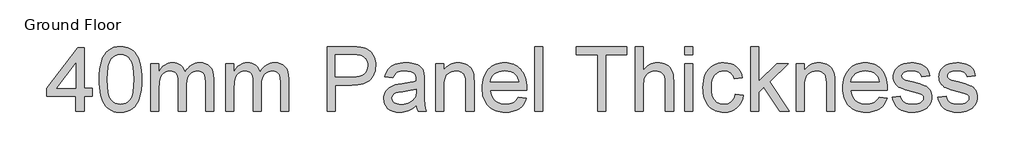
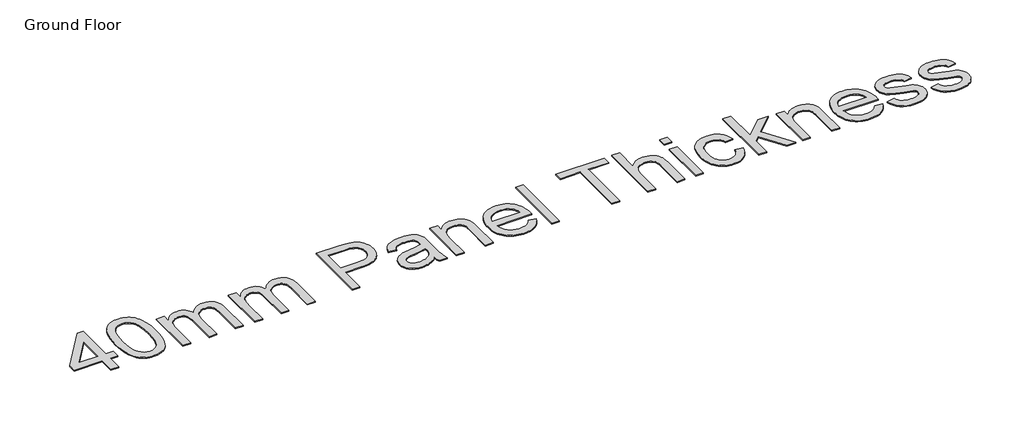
# One storey, part 11 of 14: 1 proxy.
"""IFC4 building model written with IfcOpenShell, lengths in millimetres."""

from ifc_helpers import new_model, si_unit, origin, origin_with_axes, place, context, project, spatial, polyline, outline, extrude, element, save

model = new_model("IFC4")

# Units and contexts
model_context = context("Model", 3, world=origin())
ifc_project = project(units=[si_unit("LENGTHUNIT", "METRE", prefix="MILLI")], contexts=[model_context])

# Site, building, storey
site = spatial("IfcSite", under=ifc_project)
building = spatial("IfcBuilding", under=site)
storey = spatial("IfcBuildingStorey", under=building, Name="Ground Floor", Elevation=0.0)

# Proxy
placement = place(None, origin())
element("IfcBuildingElementProxy", 1, Name="1200mm Arial", ObjectType="1200mm Arial", at=placement, inside=storey, context=model_context, shape_type="SweptSolid", body=[
    extrude(outline(polyline([(-21570.0275267, 8102.4454456), (-21570.0275267, 8384.9788179), (-22116.2587131, 8384.9788179), (-22116.2587131, 8535.6632831), (-21532.3564103, 9289.0856092), (-21419.3430614, 9289.0856092), (-21419.3430614, 8535.6632831), (-21268.6585962, 8535.6632831), (-21268.6585962, 8384.9788179), (-21419.3430614, 8384.9788179), (-21419.3430614, 8102.4454456), (-21570.0275267, 8102.4454456)]), holes=[polyline([(-21570.0275267, 8535.6632831), (-21570.0275267, 9001.2547362), (-21930.8461875, 8535.6632831), (-21570.0275267, 8535.6632831)])]), origin_with_axes(), (0.0, 0.0, 1.0), 20.0),
    extrude(outline(polyline([(-21136.8096891, 8695.4712218), (-21134.0413771, 8796.8319085), (-21125.7364411, 8888.4253283), (-21111.894881, 8970.2514811), (-21092.5166969, 9042.3103669), (-21067.6846622, 9105.1905969), (-21037.4815504, 9159.4807823), (-21001.9073615, 9205.1809232), (-20960.9620954, 9242.2910195), (-20914.5077965, 9271.0042092), (-20862.4065089, 9291.5136304), (-20804.6582327, 9303.8192831), (-20741.2629679, 9307.9211674), (-20693.6222495, 9305.4931462), (-20648.4095523, 9298.2090827), (-20605.6248763, 9286.0689769), (-20565.2682214, 9269.0728287), (-20528.314475, 9247.5057467), (-20495.7385243, 9221.6528395), (-20467.5403694, 9191.5141071), (-20443.7200102, 9157.0895494), (-20423.0818303, 9118.5171222), (-20404.4302131, 9075.9347812), (-20373.0866671, 8978.7403581), (-20361.1121082, 8921.5806931), (-20352.5588518, 8855.3159487), (-20347.426898, 8779.946125), (-20345.7162467, 8695.4712218), (-20348.4569676, 8594.7543286), (-20356.6791302, 8503.6207613), (-20370.3827345, 8422.0705201), (-20389.5677805, 8350.1036048), (-20414.2066772, 8287.1957836), (-20444.2718332, 8232.8228247), (-20479.7632487, 8186.9847281), (-20520.6809236, 8149.6814938), (-20567.1904049, 8120.775166), (-20619.4572393, 8100.127789), (-20677.481427, 8087.7393628), (-20741.2629679, 8083.6098874), (-20783.9372794, 8085.4033122), (-20824.257146, 8090.7835864), (-20862.2225679, 8099.75071), (-20897.8335451, 8112.3046831), (-20931.0900774, 8128.4455056), (-20961.992165, 8148.1731776), (-20990.5398079, 8171.487699), (-21016.7330059, 8198.3890699), (-21044.8759785, 8240.9852065), (-21069.2665548, 8289.1639523), (-21089.9047347, 8342.9253073), (-21106.7905183, 8402.2692717), (-21119.9239056, 8467.1958453), (-21129.3048964, 8537.7050282), (-21134.933491, 8613.7968204), (-21136.8096891, 8695.4712218)]), holes=[polyline([(-20986.1252239, 8695.7655274), (-20981.71064, 8564.771946), (-20968.4668881, 8458.7391579), (-20958.5340743, 8415.0830614), (-20946.3939684, 8377.6671632), (-20932.0465706, 8346.4914634), (-20915.4918808, 8321.5559619), (-20878.1150701, 8283.3790079), (-20836.6179811, 8256.109755), (-20791.0006137, 8239.7482032), (-20741.2629679, 8234.2943527), (-20691.5253222, 8239.7665973), (-20645.9079548, 8256.1833314), (-20604.4108657, 8283.5445548), (-20567.034055, 8321.8502675), (-20550.4793652, 8346.8455498), (-20536.1319674, 8378.0534393), (-20523.9918616, 8415.473936), (-20514.0590477, 8459.1070399), (-20500.8152959, 8565.0110693), (-20496.4007119, 8695.7655274), (-20500.6681431, 8823.291821), (-20513.4704365, 8927.457608), (-20523.0721566, 8970.7803114), (-20534.8075922, 9008.2628882), (-20548.6767434, 9039.9053383), (-20564.6796102, 9065.7076618), (-20601.4310216, 9105.7516169), (-20643.4063572, 9134.3544421), (-20690.6056172, 9151.5161371), (-20743.0288015, 9157.2367022), (-20792.5089298, 9152.1967188), (-20837.3537451, 9137.0767688), (-20877.5632471, 9111.8768522), (-20913.1374361, 9076.5969688), (-20930.2439488, 9048.049326), (-20945.0695932, 9014.0570296), (-20957.6143693, 8974.6200798), (-20967.8782769, 8929.7384764), (-20981.5634872, 8823.6413089), (-20986.1252239, 8695.7655274)])]), origin_with_axes(), (0.0, 0.0, 1.0), 20.0),
    extrude(outline(polyline([(-20176.1962233, 8102.4454456), (-20176.1962233, 8987.7166788), (-20025.5117581, 8987.7166788), (-20025.5117581, 8842.0354087), (-20004.468908, 8877.306095), (-19980.1886963, 8908.9531436), (-19952.6711231, 8936.9765546), (-19921.9161883, 8961.3763279), (-19888.4205326, 8981.1407881), (-19852.6807968, 8995.2582597), (-19814.6969808, 9003.7287426), (-19774.4690846, 9006.5522369), (-19730.4887921, 9003.6735603), (-19690.6655661, 8995.0375305), (-19654.9994067, 8980.6441474), (-19623.4903138, 8960.4934112), (-19596.2302579, 8935.1555387), (-19573.3112096, 8905.2007473), (-19554.7331689, 8870.6290368), (-19540.4961357, 8831.4404072), (-19513.999435, 8872.4822423), (-19485.5713538, 8908.0518327), (-19455.2118921, 8938.1491785), (-19422.92105, 8962.7742795), (-19388.6988274, 8981.9271359), (-19352.5452243, 8995.6077476), (-19314.4602408, 9003.8161146), (-19274.4438768, 9006.5522369), (-19214.1204266, 9001.9996973), (-19161.1730104, 8988.3420782), (-19115.6016283, 8965.5793797), (-19077.4062801, 8933.7116019), (-19061.2309687, 8914.2713377), (-19047.2123654, 8892.3708627), (-19025.6452834, 8841.1892801), (-19012.7050342, 8780.1668542), (-19008.3916178, 8709.3035848), (-19008.3916178, 8102.4454456), (-19159.0760831, 8102.4454456), (-19159.0760831, 8644.5563537), (-19162.570962, 8719.7146453), (-19173.0555989, 8770.371996), (-19181.4617025, 8788.6465342), (-19192.7004974, 8805.0632682), (-19206.7719837, 8819.6221981), (-19223.6761614, 8832.323324), (-19242.7968281, 8842.6240199), (-19263.5177815, 8849.9816598), (-19309.7605483, 8855.8677717), (-19352.4624509, 8852.0969813), (-19391.393563, 8840.7846099), (-19426.5538847, 8821.9306577), (-19457.9434159, 8795.5351245), (-19483.759535, 8760.8254583), (-19502.19962, 8717.0291067), (-19513.263671, 8664.1460699), (-19516.951688, 8602.1763478), (-19516.951688, 8102.4454456), (-19667.6361532, 8102.4454456), (-19667.6361532, 8661.3317727), (-19669.815854, 8706.9859283), (-19676.3549565, 8746.5332428), (-19687.2534606, 8779.9737161), (-19702.5113663, 8807.3073484), (-19722.735679, 8828.5525336), (-19748.5334039, 8843.7276659), (-19779.9045411, 8852.8327453), (-19816.8490904, 8855.8677717), (-19846.445197, 8853.8444207), (-19874.9008693, 8847.7743678), (-19902.2161074, 8837.657613), (-19928.3909114, 8823.4941561), (-19952.2296647, 8805.4311502), (-19972.5367508, 8783.6157479), (-19989.3121698, 8758.0479492), (-20002.5559216, 8728.7277542), (-20012.5991001, 8694.0916643), (-20019.772799, 8652.5761812), (-20024.0770183, 8604.1813047), (-20025.5117581, 8548.9070349), (-20025.5117581, 8102.4454456), (-20176.1962233, 8102.4454456)])), origin_with_axes(), (0.0, 0.0, 1.0), 20.0),
    extrude(outline(polyline([(-18782.36492, 8102.4454456), (-18782.36492, 8987.7166788), (-18631.6804548, 8987.7166788), (-18631.6804548, 8842.0354087), (-18610.6376047, 8877.306095), (-18586.357393, 8908.9531436), (-18558.8398197, 8936.9765546), (-18528.0848849, 8961.3763279), (-18494.5892293, 8981.1407881), (-18458.8494934, 8995.2582597), (-18420.8656774, 9003.7287426), (-18380.6377813, 9006.5522369), (-18336.6574887, 9003.6735603), (-18296.8342628, 8995.0375305), (-18261.1681033, 8980.6441474), (-18229.6590104, 8960.4934112), (-18202.3989546, 8935.1555387), (-18179.4799063, 8905.2007473), (-18160.9018656, 8870.6290368), (-18146.6648323, 8831.4404072), (-18120.1681316, 8872.4822423), (-18091.7400505, 8908.0518327), (-18061.3805888, 8938.1491785), (-18029.0897467, 8962.7742795), (-17994.8675241, 8981.9271359), (-17958.713921, 8995.6077476), (-17920.6289375, 9003.8161146), (-17880.6125734, 9006.5522369), (-17820.2891233, 9001.9996973), (-17767.3417071, 8988.3420782), (-17721.770325, 8965.5793797), (-17683.5749768, 8933.7116019), (-17667.3996653, 8914.2713377), (-17653.3810621, 8892.3708627), (-17631.8139801, 8841.1892801), (-17618.8737309, 8780.1668542), (-17614.5603145, 8709.3035848), (-17614.5603145, 8102.4454456), (-17765.2447797, 8102.4454456), (-17765.2447797, 8644.5563537), (-17768.7396587, 8719.7146453), (-17779.2242956, 8770.371996), (-17787.6303991, 8788.6465342), (-17798.8691941, 8805.0632682), (-17812.9406804, 8819.6221981), (-17829.8448581, 8832.323324), (-17848.9655248, 8842.6240199), (-17869.6864782, 8849.9816598), (-17915.929245, 8855.8677717), (-17958.6311476, 8852.0969813), (-17997.5622597, 8840.7846099), (-18032.7225814, 8821.9306577), (-18064.1121126, 8795.5351245), (-18089.9282316, 8760.8254583), (-18108.3683166, 8717.0291067), (-18119.4323676, 8664.1460699), (-18123.1203846, 8602.1763478), (-18123.1203846, 8102.4454456), (-18273.8048499, 8102.4454456), (-18273.8048499, 8661.3317727), (-18275.9845507, 8706.9859283), (-18282.5236532, 8746.5332428), (-18293.4221573, 8779.9737161), (-18308.680063, 8807.3073484), (-18328.9043757, 8828.5525336), (-18354.7021006, 8843.7276659), (-18386.0732377, 8852.8327453), (-18423.0177871, 8855.8677717), (-18452.6138936, 8853.8444207), (-18481.069566, 8847.7743678), (-18508.3848041, 8837.657613), (-18534.5596081, 8823.4941561), (-18558.3983613, 8805.4311502), (-18578.7054475, 8783.6157479), (-18595.4808665, 8758.0479492), (-18608.7246183, 8728.7277542), (-18618.7677967, 8694.0916643), (-18625.9414957, 8652.5761812), (-18630.245715, 8604.1813047), (-18631.6804548, 8548.9070349), (-18631.6804548, 8102.4454456), (-18782.36492, 8102.4454456)])), origin_with_axes(), (0.0, 0.0, 1.0), 20.0),
    extrude(outline(polyline([(-16898.8091047, 8102.4454456), (-16898.8091047, 9307.9211674), (-16452.0532098, 9307.9211674), (-16348.0161815, 9305.0516878), (-16271.9381849, 9296.4432491), (-16230.0088345, 9287.4025491), (-16191.6295454, 9274.9957288), (-16156.8003175, 9259.2227883), (-16125.5211508, 9240.0837275), (-16097.4609517, 9217.1830733), (-16072.2886261, 9190.1253525), (-16050.0041743, 9158.9105652), (-16030.6075961, 9123.5387114), (-16014.8990349, 9085.1778164), (-16003.678634, 9044.9959054), (-15996.9463935, 9002.9929786), (-15994.7023134, 8959.169036), (-16000.7631692, 8885.1695726), (-16008.3392391, 8850.3909285), (-16018.9457368, 8817.0930094), (-16032.5826625, 8785.2758154), (-16049.2500162, 8754.9393463), (-16068.9477978, 8726.0836023), (-16091.6760073, 8698.7085834), (-16118.3589482, 8673.738593), (-16149.9209242, 8652.0979346), (-16186.3619351, 8633.7866083), (-16227.6819809, 8618.804614), (-16273.8810617, 8607.1519518), (-16324.9591775, 8598.8286217), (-16380.9163282, 8593.8346236), (-16441.7525139, 8592.1699576), (-16748.1246395, 8592.1699576), (-16748.1246395, 8102.4454456), (-16898.8091047, 8102.4454456)]), holes=[polyline([(-16748.1246395, 8742.8544228), (-16432.923346, 8742.8544228), (-16360.450593, 8746.3125136), (-16299.3086054, 8756.6867858), (-16249.4973832, 8773.9772396), (-16211.0169265, 8798.1838749), (-16182.3037368, 8828.6628982), (-16161.7943156, 8864.770516), (-16149.4886628, 8906.5067284), (-16145.3867786, 8953.8715352), (-16147.8056027, 8989.041054), (-16155.062075, 9021.5618223), (-16167.1561956, 9051.4338404), (-16184.0879645, 9078.657108), (-16204.9560706, 9102.3487085), (-16228.8592033, 9121.625725), (-16255.7973624, 9136.4881576), (-16285.7705479, 9146.9360063), (-16343.8959032, 9154.6615282), (-16436.4550132, 9157.2367022), (-16748.1246395, 9157.2367022), (-16748.1246395, 8742.8544228)])]), origin_with_axes(), (0.0, 0.0, 1.0), 20.0),
    extrude(outline(polyline([(-15241.2799872, 8215.4587945), (-15277.010526, 8181.9263507), (-15313.2744937, 8153.7281957), (-15350.0718903, 8130.8643297), (-15387.4027157, 8113.3347527), (-15425.6900344, 8100.3301241), (-15465.3569105, 8091.0411037), (-15506.4033441, 8085.4676915), (-15548.8293352, 8083.6098874), (-15615.9218141, 8088.0796537), (-15674.7553421, 8101.4889524), (-15725.3299194, 8123.8377836), (-15767.6455459, 8155.1261473), (-15801.0584281, 8193.3674807), (-15824.9247726, 8236.575221), (-15839.2445792, 8284.7493683), (-15844.0178481, 8337.8899225), (-15842.2152264, 8369.8404738), (-15836.807361, 8400.3562853), (-15827.7942521, 8429.437357), (-15815.1758997, 8457.083689), (-15799.6236884, 8482.6882758), (-15781.8090027, 8505.6441123), (-15761.7318429, 8525.9511984), (-15739.3922087, 8543.6095342), (-15689.5441984, 8572.3043298), (-15633.8836525, 8593.0528744), (-15579.6578464, 8604.604369), (-15503.5062734, 8615.7144053), (-15349.4372938, 8639.5531586), (-15289.9507752, 8653.0176396), (-15242.162904, 8667.5121902), (-15241.2799872, 8701.0630282), (-15243.8735553, 8737.5937103), (-15251.6542595, 8768.3118569), (-15264.6220998, 8793.2174679), (-15282.7770763, 8812.3105435), (-15314.1574105, 8831.3668308), (-15352.3803498, 8844.9784647), (-15397.4458942, 8853.145445), (-15449.3540437, 8855.8677717), (-15497.6201615, 8854.0559529), (-15539.1172505, 8848.6204964), (-15573.8453109, 8839.5614023), (-15601.8043425, 8826.8786705), (-15624.7785731, 8809.5790197), (-15644.5522303, 8786.6691684), (-15661.1253142, 8758.1491168), (-15674.4978247, 8724.0188647), (-15825.18229, 8742.8544228), (-15813.7135688, 8786.2644982), (-15799.0258801, 8825.2599897), (-15781.119224, 8859.8408973), (-15759.9936004, 8890.0072209), (-15734.7385015, 8916.3659658), (-15704.4434192, 8939.5241374), (-15669.1083535, 8959.4817357), (-15628.7333045, 8976.2387605), (-15584.1368097, 8989.5009065), (-15536.1374064, 8998.9738678), (-15484.7350946, 9004.6576447), (-15429.9298744, 9006.5522369), (-15376.3570588, 9004.8783739), (-15328.0633499, 8999.8567846), (-15285.0487476, 8991.4874692), (-15247.313252, 8979.7704277), (-15214.5441632, 8965.5241974), (-15186.4287817, 8949.5673159), (-15162.9671075, 8931.8997831), (-15144.1591405, 8912.521599), (-15128.9104318, 8890.954517), (-15116.1265325, 8866.7202906), (-15097.9531619, 8810.2504043), (-15092.434932, 8758.1583138), (-15090.595522, 8678.4014972), (-15090.595522, 8490.9288325), (-15088.6825356, 8327.6260148), (-15082.9435765, 8229.1440047), (-15071.6128111, 8164.4335618), (-15052.9244057, 8102.4454456), (-15203.6088709, 8102.4454456), (-15216.9997755, 8127.6085741), (-15227.7419298, 8154.8318417), (-15241.2799872, 8215.4587945)]), holes=[polyline([(-15241.2799872, 8516.827725), (-15286.8237782, 8503.7863082), (-15342.5211123, 8491.7381729), (-15484.3764096, 8470.6217464), (-15562.5513336, 8459.0702517), (-15614.0180247, 8446.1943819), (-15647.7528037, 8429.4925393), (-15672.7319912, 8406.4631264), (-15688.183035, 8378.8719768), (-15693.3333829, 8348.484924), (-15690.5282827, 8325.069235), (-15682.1129821, 8303.676897), (-15668.087481, 8284.3079099), (-15648.4517795, 8266.9622738), (-15623.3898186, 8252.6700583), (-15593.0855392, 8242.461333), (-15557.5389414, 8236.3360977), (-15516.7500252, 8234.2943527), (-15475.1057834, 8236.5476299), (-15435.8159863, 8243.3074616), (-15398.880634, 8254.5738477), (-15364.2997264, 8270.3467882), (-15333.1033332, 8289.3203021), (-15306.321524, 8310.1884083), (-15283.9542987, 8332.9511067), (-15266.0016573, 8357.6083975), (-15255.5722027, 8379.6813172), (-15248.1225923, 8406.4631264), (-15243.6528261, 8437.9538252), (-15242.162904, 8474.1534135), (-15241.2799872, 8516.827725)])]), origin_with_axes(), (0.0, 0.0, 1.0), 20.0),
    extrude(outline(polyline([(-14883.4043823, 8102.4454456), (-14883.4043823, 8987.7166788), (-14732.7199171, 8987.7166788), (-14732.7199171, 8864.1083284), (-14707.8602913, 8897.4936195), (-14680.3703092, 8926.4275384), (-14650.2499708, 8950.9100852), (-14617.4992762, 8970.9412598), (-14582.1182253, 8986.5210623), (-14544.1068182, 8997.6494927), (-14503.4650548, 9004.3265509), (-14460.1929351, 9006.5522369), (-14422.2734984, 9004.7588122), (-14385.9175602, 8999.378538), (-14351.1251206, 8990.4114144), (-14317.8961793, 8977.8574413), (-14287.4907324, 8962.3880034), (-14261.1687757, 8944.6744854), (-14238.9303091, 8924.7168871), (-14220.7753326, 8902.5152087), (-14193.368124, 8851.489976), (-14175.5994236, 8791.7091518), (-14169.6397353, 8734.5402897), (-14167.6531725, 8646.0278817), (-14167.6531725, 8102.4454456), (-14318.3376377, 8102.4454456), (-14318.3376377, 8625.7207955), (-14322.6786453, 8703.6382021), (-14328.1049047, 8734.1540136), (-14335.7016679, 8759.0412306), (-14346.048349, 8780.0013073), (-14359.7243622, 8798.7356979), (-14376.7297074, 8815.2444024), (-14397.0643847, 8829.5274209), (-14420.0294182, 8841.0513244), (-14444.9258323, 8849.282684), (-14471.7536268, 8854.2214998), (-14500.5128017, 8855.8677717), (-14546.2681249, 8852.1705577), (-14588.7676924, 8841.0789155), (-14628.0115042, 8822.5928453), (-14663.9995604, 8796.7123469), (-14680.105894, 8780.2634232), (-14694.0647165, 8760.4943645), (-14705.8760278, 8737.4051708), (-14715.5398279, 8710.995842), (-14728.4248948, 8648.2167795), (-14732.7199171, 8572.157177), (-14732.7199171, 8102.4454456), (-14883.4043823, 8102.4454456)])), origin_with_axes(), (0.0, 0.0, 1.0), 20.0),
    extrude(outline(polyline([(-13340.6544473, 8366.1432597), (-13192.9130381, 8347.3077016), (-13215.5653719, 8288.1338827), (-13246.1455628, 8235.9866098), (-13284.6536106, 8190.8658831), (-13331.0895155, 8152.7717025), (-13384.9750307, 8122.5134084), (-13445.8319098, 8100.9003412), (-13513.6601526, 8087.9325009), (-13588.4597593, 8083.6098874), (-13636.4821552, 8085.4745893), (-13681.9569684, 8091.0686949), (-13724.8841987, 8100.3922042), (-13765.2638462, 8113.4451173), (-13803.0959109, 8130.227434), (-13838.3803927, 8150.7391545), (-13871.1172918, 8174.9802787), (-13901.306608, 8202.9508067), (-13928.4149125, 8234.2874549), (-13951.9087764, 8268.6269399), (-13971.7881997, 8305.9692616), (-13988.0531825, 8346.3144202), (-14000.7037246, 8389.6624155), (-14009.7398261, 8436.0132477), (-14015.161487, 8485.3669166), (-14016.9687073, 8537.7234223), (-14015.1430929, 8591.8618564), (-14009.6662497, 8642.8824906), (-14000.5381777, 8690.7853249), (-13987.7588769, 8735.5703593), (-13971.3283473, 8777.2375938), (-13951.2465888, 8815.7870283), (-13927.5136016, 8851.218663), (-13900.1293856, 8883.5324978), (-13869.8343033, 8912.3652491), (-13837.3687172, 8937.3536337), (-13802.7326274, 8958.4976513), (-13765.9260338, 8975.7973021), (-13726.9489364, 8989.2525861), (-13685.8013352, 8998.8635032), (-13642.4832303, 9004.6300535), (-13596.9946216, 9006.5522369), (-13552.9936357, 9004.634652), (-13511.0481905, 8998.8818973), (-13471.1582859, 8989.2939728), (-13433.3239219, 8975.8708785), (-13397.5450986, 8958.6126145), (-13363.821816, 8937.5191806), (-13332.154074, 8912.5905769), (-13302.5418726, 8883.8268034), (-13275.7439686, 8851.586545), (-13252.5191184, 8816.2284867), (-13232.867322, 8777.7526286), (-13216.7885796, 8736.1589705), (-13204.282891, 8691.4475125), (-13195.3502563, 8643.6182546), (-13189.9906755, 8592.6711968), (-13188.2041485, 8538.6063391), (-13189.0870653, 8497.9921668), (-13866.2842421, 8497.9921668), (-13857.5562417, 8437.8618547), (-13840.2014086, 8385.1995471), (-13814.2197427, 8340.005244), (-13779.611244, 8302.2789454), (-13738.2888989, 8272.5356861), (-13692.1656937, 8251.2905008), (-13641.2416286, 8238.5433897), (-13585.5167033, 8234.2943527), (-13543.8356733, 8236.2625213), (-13505.3184284, 8242.1670274), (-13469.9649687, 8252.0078707), (-13437.7752941, 8265.7850515), (-13408.7494047, 8283.8664515), (-13382.8873004, 8306.6199529), (-13360.1889813, 8334.0455557), (-13340.6544473, 8366.1432597)]), holes=[polyline([(-13866.2842421, 8648.676632), (-13338.8886138, 8648.676632), (-13346.6325298, 8691.3141553), (-13359.2692763, 8728.2862958), (-13376.7988534, 8759.5930536), (-13399.221261, 8785.2344286), (-13440.3136798, 8816.1365162), (-13487.0714814, 8838.209436), (-13539.4946657, 8851.4531878), (-13597.5832328, 8855.8677717), (-13650.5674371, 8852.3453016), (-13699.1554516, 8841.7778913), (-13743.3472763, 8824.1655408), (-13783.1429111, 8799.5082501), (-13816.5373993, 8768.9464533), (-13841.5257838, 8733.6205847), (-13858.1080647, 8693.5306443), (-13866.2842421, 8648.676632)])]), origin_with_axes(), (0.0, 0.0, 1.0), 20.0),
    extrude(outline(polyline([(-13037.5196833, 8102.4454456), (-13037.5196833, 9307.9211674), (-12886.8352181, 9307.9211674), (-12886.8352181, 8102.4454456), (-13037.5196833, 8102.4454456)])), origin_with_axes(), (0.0, 0.0, 1.0), 20.0),
    extrude(outline(polyline([(-11869.7150778, 8102.4454456), (-11869.7150778, 9157.2367022), (-12265.261799, 9157.2367022), (-12265.261799, 9307.9211674), (-11323.4838914, 9307.9211674), (-11323.4838914, 9157.2367022), (-11719.0306126, 9157.2367022), (-11719.0306126, 8102.4454456), (-11869.7150778, 8102.4454456)])), origin_with_axes(), (0.0, 0.0, 1.0), 20.0),
    extrude(outline(polyline([(-11172.7994262, 8102.4454456), (-11172.7994262, 9307.9211674), (-11022.1149609, 9307.9211674), (-11022.1149609, 8864.6969396), (-10995.291765, 8897.9442749), (-10966.7671148, 8926.7586322), (-10936.5410103, 8951.1400114), (-10904.6134517, 8971.0884126), (-10870.9844388, 8986.6038358), (-10835.6539717, 8997.6862809), (-10798.6220504, 9004.3357479), (-10759.8886748, 9006.5522369), (-10712.7813853, 9004.1334128), (-10668.8746692, 8996.8769405), (-10628.1685264, 8984.7828199), (-10590.662957, 8967.8510511), (-10557.3144541, 8946.6518511), (-10529.079511, 8921.7554371), (-10505.9581276, 8893.161809), (-10487.9503039, 8860.8709669), (-10474.4306406, 8822.8871509), (-10464.7737383, 8777.2146012), (-10458.9795968, 8723.8533178), (-10457.0482164, 8662.8033007), (-10457.0482164, 8102.4454456), (-10607.7326816, 8102.4454456), (-10607.7326816, 8647.2051041), (-10610.7309198, 8698.083184), (-10619.7256346, 8741.5300476), (-10634.7168259, 8777.5456949), (-10655.7044938, 8806.130126), (-10682.1919974, 8827.890346), (-10713.6826962, 8843.4333603), (-10750.1765901, 8852.7591689), (-10791.6736792, 8855.8677717), (-10824.0013095, 8853.7708443), (-10855.3540525, 8847.4800622), (-10885.7319083, 8836.9954254), (-10915.1348767, 8822.3169338), (-10941.9718683, 8804.0515927), (-10964.6517933, 8782.8064075), (-10983.1746518, 8758.5813781), (-10997.5404437, 8731.3765046), (-11008.291795, 8699.9409881), (-11015.9713316, 8663.0240299), (-11020.5790536, 8620.6256299), (-11022.1149609, 8572.7457882), (-11022.1149609, 8102.4454456), (-11172.7994262, 8102.4454456)])), origin_with_axes(), (0.0, 0.0, 1.0), 20.0),
    extrude(outline(polyline([(-10249.8570767, 9157.2367022), (-10249.8570767, 9307.9211674), (-10099.1726114, 9307.9211674), (-10099.1726114, 9157.2367022), (-10249.8570767, 9157.2367022)])), origin_with_axes(), (0.0, 0.0, 1.0), 20.0),
    extrude(outline(polyline([(-10249.8570767, 8102.4454456), (-10249.8570767, 8987.7166788), (-10099.1726114, 8987.7166788), (-10099.1726114, 8102.4454456), (-10249.8570767, 8102.4454456)])), origin_with_axes(), (0.0, 0.0, 1.0), 20.0),
    extrude(outline(polyline([(-9308.079169, 8422.6499342), (-9157.3947038, 8403.814376), (-9173.7838467, 8332.7119834), (-9199.4068276, 8269.7949652), (-9234.2636467, 8215.0633214), (-9278.3543038, 8168.5170519), (-9329.8209949, 8131.3701675), (-9386.805916, 8104.8366786), (-9449.309067, 8088.9165852), (-9517.3304479, 8083.6098874), (-9560.6784432, 8085.4607937), (-9601.8421392, 8091.0135126), (-9640.8215359, 8100.268044), (-9677.6166332, 8113.2243881), (-9712.2274311, 8129.8825447), (-9744.6539297, 8150.2425138), (-9774.896129, 8174.3042956), (-9802.9540289, 8202.0678899), (-9828.2344198, 8233.289575), (-9850.1440919, 8267.725629), (-9868.6830452, 8305.3760519), (-9883.8512797, 8346.2408438), (-9895.6487954, 8390.3200046), (-9904.0755924, 8437.6135344), (-9909.1316705, 8488.121433), (-9910.8170299, 8541.8437006), (-9907.9383533, 8611.1250774), (-9899.3023235, 8675.9366879), (-9884.9089404, 8736.2785321), (-9864.7582041, 8792.1506102), (-9838.7121589, 8842.4308818), (-9806.6328489, 8885.9973071), (-9768.5202742, 8922.849886), (-9724.3744348, 8952.9886184), (-9676.1910904, 8976.4227015), (-9625.9660011, 8993.1613323), (-9573.6991666, 9003.2045108), (-9519.390587, 9006.5522369), (-9452.5372315, 9001.953712), (-9392.0666285, 8988.1581372), (-9337.9787782, 8965.1655125), (-9290.2736805, 8932.9758379), (-9249.7606757, 8892.3248774), (-9217.2491044, 8843.9483951), (-9192.7389665, 8787.8463908), (-9176.2302619, 8724.0188647), (-9326.9147272, 8705.1833065), (-9338.677754, 8740.3804164), (-9354.2483594, 8770.923819), (-9373.6265435, 8796.8135144), (-9396.8123063, 8818.0495026), (-9423.2170365, 8834.5949954), (-9452.2521229, 8846.4132044), (-9483.9175657, 8853.5041299), (-9518.2133647, 8855.8677717), (-9569.4133413, 8851.2140645), (-9615.5917288, 8837.2529428), (-9656.748527, 8813.9844066), (-9692.883736, 8781.4084559), (-9708.6451802, 8761.4416606), (-9722.3050985, 8738.7709327), (-9743.3203575, 8685.3176788), (-9755.9295129, 8621.0486942), (-9760.1325647, 8545.963979), (-9756.0214834, 8469.7480266), (-9743.6882395, 8404.734081), (-9723.132833, 8350.9221422), (-9709.7718188, 8328.2169253), (-9694.355264, 8308.3122101), (-9658.9374249, 8275.9293975), (-9618.4612083, 8252.798817), (-9572.9266144, 8238.9204688), (-9522.333643, 8234.2943527), (-9481.5631209, 8237.1822263), (-9444.3058718, 8245.8458473), (-9410.5618958, 8260.2852156), (-9380.3311929, 8280.5003313), (-9354.4598916, 8306.7119234), (-9333.7941205, 8339.1407213), (-9318.3338796, 8377.7867249), (-9308.079169, 8422.6499342)])), origin_with_axes(), (0.0, 0.0, 1.0), 20.0),
    extrude(outline(polyline([(-9025.5457967, 8102.4454456), (-9025.5457967, 9307.9211674), (-8874.8613315, 9307.9211674), (-8874.8613315, 8660.1545503), (-8536.9985071, 8987.7166788), (-8328.6301451, 8987.7166788), (-8670.6132478, 8656.0342719), (-8309.7945869, 8102.4454456), (-8485.7893334, 8102.4454456), (-8778.6234016, 8551.2614797), (-8874.8613315, 8457.9666057), (-8874.8613315, 8102.4454456), (-9025.5457967, 8102.4454456)])), origin_with_axes(), (0.0, 0.0, 1.0), 20.0),
    extrude(outline(polyline([(-8177.9456798, 8102.4454456), (-8177.9456798, 8987.7166788), (-8027.2612146, 8987.7166788), (-8027.2612146, 8864.1083284), (-8002.4015888, 8897.4936195), (-7974.9116067, 8926.4275384), (-7944.7912683, 8950.9100852), (-7912.0405737, 8970.9412598), (-7876.6595228, 8986.5210623), (-7838.6481157, 8997.6494927), (-7798.0063523, 9004.3265509), (-7754.7342326, 9006.5522369), (-7716.8147959, 9004.7588122), (-7680.4588578, 8999.378538), (-7645.6664181, 8990.4114144), (-7612.4374768, 8977.8574413), (-7582.0320299, 8962.3880034), (-7555.7100732, 8944.6744854), (-7533.4716066, 8924.7168871), (-7515.3166301, 8902.5152087), (-7487.9094215, 8851.489976), (-7470.1407211, 8791.7091518), (-7464.1810328, 8734.5402897), (-7462.19447, 8646.0278817), (-7462.19447, 8102.4454456), (-7612.8789352, 8102.4454456), (-7612.8789352, 8625.7207955), (-7617.2199428, 8703.6382021), (-7622.6462022, 8734.1540136), (-7630.2429654, 8759.0412306), (-7640.5896465, 8780.0013073), (-7654.2656597, 8798.7356979), (-7671.2710049, 8815.2444024), (-7691.6056822, 8829.5274209), (-7714.5707158, 8841.0513244), (-7739.4671298, 8849.282684), (-7766.2949243, 8854.2214998), (-7795.0540993, 8855.8677717), (-7840.8094224, 8852.1705577), (-7883.3089899, 8841.0789155), (-7922.5528017, 8822.5928453), (-7958.5408579, 8796.7123469), (-7974.6471915, 8780.2634232), (-7988.606014, 8760.4943645), (-8000.4173253, 8737.4051708), (-8010.0811254, 8710.995842), (-8022.9661923, 8648.2167795), (-8027.2612146, 8572.157177), (-8027.2612146, 8102.4454456), (-8177.9456798, 8102.4454456)])), origin_with_axes(), (0.0, 0.0, 1.0), 20.0),
    extrude(outline(polyline([(-6635.1957449, 8366.1432597), (-6487.4543356, 8347.3077016), (-6510.1066695, 8288.1338827), (-6540.6868603, 8235.9866098), (-6579.1949081, 8190.8658831), (-6625.630813, 8152.7717025), (-6679.5163282, 8122.5134084), (-6740.3732073, 8100.9003412), (-6808.2014501, 8087.9325009), (-6883.0010568, 8083.6098874), (-6931.0234528, 8085.4745893), (-6976.4982659, 8091.0686949), (-7019.4254962, 8100.3922042), (-7059.8051437, 8113.4451173), (-7097.6372084, 8130.227434), (-7132.9216902, 8150.7391545), (-7165.6585893, 8174.9802787), (-7195.8479055, 8202.9508067), (-7222.95621, 8234.2874549), (-7246.4500739, 8268.6269399), (-7266.3294973, 8305.9692616), (-7282.59448, 8346.3144202), (-7295.2450221, 8389.6624155), (-7304.2811236, 8436.0132477), (-7309.7027845, 8485.3669166), (-7311.5100048, 8537.7234223), (-7309.6843904, 8591.8618564), (-7304.2075472, 8642.8824906), (-7295.0794752, 8690.7853249), (-7282.3001744, 8735.5703593), (-7265.8696448, 8777.2375938), (-7245.7878864, 8815.7870283), (-7222.0548991, 8851.218663), (-7194.6706831, 8883.5324978), (-7164.3756008, 8912.3652491), (-7131.9100147, 8937.3536337), (-7097.2739249, 8958.4976513), (-7060.4673313, 8975.7973021), (-7021.4902339, 8989.2525861), (-6980.3426327, 8998.8635032), (-6937.0245278, 9004.6300535), (-6891.5359191, 9006.5522369), (-6847.5349332, 9004.634652), (-6805.589488, 8998.8818973), (-6765.6995834, 8989.2939728), (-6727.8652194, 8975.8708785), (-6692.0863962, 8958.6126145), (-6658.3631135, 8937.5191806), (-6626.6953715, 8912.5905769), (-6597.0831702, 8883.8268034), (-6570.2852661, 8851.586545), (-6547.0604159, 8816.2284867), (-6527.4086195, 8777.7526286), (-6511.3298771, 8736.1589705), (-6498.8241885, 8691.4475125), (-6489.8915538, 8643.6182546), (-6484.531973, 8592.6711968), (-6482.7454461, 8538.6063391), (-6483.6283628, 8497.9921668), (-7160.8255396, 8497.9921668), (-7152.0975392, 8437.8618547), (-7134.7427061, 8385.1995471), (-7108.7610402, 8340.005244), (-7074.1525415, 8302.2789454), (-7032.8301964, 8272.5356861), (-6986.7069913, 8251.2905008), (-6935.7829261, 8238.5433897), (-6880.0580009, 8234.2943527), (-6838.3769708, 8236.2625213), (-6799.8597259, 8242.1670274), (-6764.5062662, 8252.0078707), (-6732.3165916, 8265.7850515), (-6703.2907022, 8283.8664515), (-6677.4285979, 8306.6199529), (-6654.7302788, 8334.0455557), (-6635.1957449, 8366.1432597)]), holes=[polyline([(-7160.8255396, 8648.676632), (-6633.4299113, 8648.676632), (-6641.1738273, 8691.3141553), (-6653.8105738, 8728.2862958), (-6671.3401509, 8759.5930536), (-6693.7625585, 8785.2344286), (-6734.8549774, 8816.1365162), (-6781.6127789, 8838.209436), (-6834.0359633, 8851.4531878), (-6892.1245303, 8855.8677717), (-6945.1087346, 8852.3453016), (-6993.6967492, 8841.7778913), (-7037.8885738, 8824.1655408), (-7077.6842087, 8799.5082501), (-7111.0786968, 8768.9464533), (-7136.0670813, 8733.6205847), (-7152.6493622, 8693.5306443), (-7160.8255396, 8648.676632)])]), origin_with_axes(), (0.0, 0.0, 1.0), 20.0),
    extrude(outline(polyline([(-6388.5676553, 8366.1432597), (-6237.8831901, 8384.9788179), (-6228.7781107, 8350.6186395), (-6214.1180132, 8320.5258923), (-6193.9028975, 8294.7005763), (-6168.1327638, 8273.1426914), (-6136.7340355, 8256.1465432), (-6099.6331363, 8244.0064373), (-6056.8300661, 8236.7223738), (-6008.3248251, 8234.2943527), (-5959.8747663, 8236.5200387), (-5918.1201599, 8243.197097), (-5883.0610057, 8254.3255273), (-5854.6973039, 8269.9053298), (-5832.8083252, 8288.4833706), (-5817.1733404, 8308.6065157), (-5807.7923495, 8330.2747652), (-5804.6653526, 8353.4881191), (-5807.8107436, 8373.8319934), (-5817.2469168, 8391.8949994), (-5832.9738721, 8407.677137), (-5854.9916095, 8421.1784062), (-5911.4247076, 8440.30827), (-6010.0906587, 8464.1470233), (-6147.6049485, 8503.9150669), (-6237.0002733, 8537.8705751), (-6267.6908287, 8554.8943144), (-6294.4266527, 8574.916292), (-6317.2077453, 8597.9365079), (-6336.0341064, 8623.954962), (-6350.7769773, 8652.1899051), (-6361.3075995, 8681.859588), (-6367.6259727, 8712.9640107), (-6369.7320971, 8745.5031732), (-6368.03984, 8775.2556295), (-6362.9630684, 8803.8860458), (-6354.5017825, 8831.394422), (-6342.6559823, 8857.7807581), (-6327.8855202, 8882.5116252), (-6310.6502487, 8905.0535945), (-6290.9501679, 8925.4066659), (-6268.7852777, 8943.5708394), (-6227.177824, 8967.8142629), (-6172.9888061, 8988.1581372), (-6110.3385023, 9001.953712), (-6043.347191, 9006.5522369), (-5992.7082344, 9004.7036299), (-5945.2698511, 8999.1578088), (-5901.0320412, 8989.9147737), (-5859.9948046, 8976.9745245), (-5823.1330287, 8960.8796872), (-5791.4216007, 8942.1728878), (-5764.8605207, 8920.8541262), (-5743.4497886, 8896.9234024), (-5726.0857584, 8869.5437849), (-5711.6647842, 8837.8783422), (-5700.1868659, 8801.9270742), (-5691.6520036, 8761.689981), (-5842.3364689, 8742.8544228), (-5849.5193648, 8768.0267483), (-5861.355968, 8790.274412), (-5877.8462784, 8809.5974138), (-5898.9902961, 8825.9957537), (-5924.8799915, 8839.0647616), (-5955.6073352, 8848.3997672), (-5991.1723271, 8854.0007706), (-6031.5749672, 8855.8677717), (-6078.4431334, 8854.083544), (-6118.1008124, 8848.730861), (-6150.5480044, 8839.8097226), (-6175.7847093, 8827.3201289), (-6194.7122379, 8812.4576963), (-6208.2319013, 8796.4180413), (-6216.3436993, 8779.2011639), (-6219.0476319, 8760.8070642), (-6214.5594716, 8737.6304985), (-6201.0949906, 8716.9555303), (-6178.0655777, 8698.4878542), (-6144.8826217, 8683.698998), (-6015.0938538, 8651.619688), (-5881.9573597, 8612.2563145), (-5793.9231983, 8580.6920393), (-5762.9475343, 8565.2961778), (-5735.5035375, 8546.7733194), (-5711.5912078, 8525.123464), (-5691.2105452, 8500.3466116), (-5674.9225699, 8472.405974), (-5663.2883018, 8441.2647632), (-5656.3077409, 8406.9229789), (-5653.9808873, 8369.3806213), (-5656.7124111, 8331.6727168), (-5664.9069826, 8295.0684583), (-5678.5646017, 8259.5678457), (-5697.6852684, 8225.1708792), (-5721.956283, 8193.2479191), (-5751.0649459, 8165.1693258), (-5785.011257, 8140.9350993), (-5823.7952163, 8120.5452398), (-5866.3591631, 8104.3860231), (-5911.6454367, 8092.8437255), (-5959.6540371, 8085.918347), (-6010.3849643, 8083.6098874), (-6091.4845501, 8088.0612596), (-6162.3202283, 8101.415376), (-6222.8919988, 8123.6722367), (-6249.3289186, 8138.1391962), (-6273.1998616, 8154.8318417), (-6314.2922805, 8194.7470382), (-6347.217719, 8243.2706734), (-6371.9761773, 8300.4027472), (-6388.5676553, 8366.1432597)])), origin_with_axes(), (0.0, 0.0, 1.0), 20.0),
    extrude(outline(polyline([(-5540.9675384, 8366.1432597), (-5390.2830732, 8384.9788179), (-5381.1779938, 8350.6186395), (-5366.5178963, 8320.5258923), (-5346.3027807, 8294.7005763), (-5320.5326469, 8273.1426914), (-5289.1339186, 8256.1465432), (-5252.0330194, 8244.0064373), (-5209.2299493, 8236.7223738), (-5160.7247082, 8234.2943527), (-5112.2746494, 8236.5200387), (-5070.520043, 8243.197097), (-5035.4608888, 8254.3255273), (-5007.097187, 8269.9053298), (-4985.2082083, 8288.4833706), (-4969.5732235, 8308.6065157), (-4960.1922326, 8330.2747652), (-4957.0652357, 8353.4881191), (-4960.2106267, 8373.8319934), (-4969.6467999, 8391.8949994), (-4985.3737552, 8407.677137), (-5007.3914926, 8421.1784062), (-5063.8245907, 8440.30827), (-5162.4905418, 8464.1470233), (-5300.0048316, 8503.9150669), (-5389.4001564, 8537.8705751), (-5420.0907118, 8554.8943144), (-5446.8265358, 8574.916292), (-5469.6076284, 8597.9365079), (-5488.4339895, 8623.954962), (-5503.1768605, 8652.1899051), (-5513.7074826, 8681.859588), (-5520.0258558, 8712.9640107), (-5522.1319803, 8745.5031732), (-5520.4397231, 8775.2556295), (-5515.3629515, 8803.8860458), (-5506.9016657, 8831.394422), (-5495.0558654, 8857.7807581), (-5480.2854033, 8882.5116252), (-5463.0501318, 8905.0535945), (-5443.350051, 8925.4066659), (-5421.1851608, 8943.5708394), (-5379.5777071, 8967.8142629), (-5325.3886892, 8988.1581372), (-5262.7383855, 9001.953712), (-5195.7470741, 9006.5522369), (-5145.1081175, 9004.7036299), (-5097.6697342, 8999.1578088), (-5053.4319243, 8989.9147737), (-5012.3946877, 8976.9745245), (-4975.5329118, 8960.8796872), (-4943.8214838, 8942.1728878), (-4917.2604038, 8920.8541262), (-4895.8496717, 8896.9234024), (-4878.4856415, 8869.5437849), (-4864.0646673, 8837.8783422), (-4852.586749, 8801.9270742), (-4844.0518867, 8761.689981), (-4994.736352, 8742.8544228), (-5001.9192479, 8768.0267483), (-5013.7558511, 8790.274412), (-5030.2461616, 8809.5974138), (-5051.3901792, 8825.9957537), (-5077.2798746, 8839.0647616), (-5108.0072183, 8848.3997672), (-5143.5722102, 8854.0007706), (-5183.9748503, 8855.8677717), (-5230.8430165, 8854.083544), (-5270.5006956, 8848.730861), (-5302.9478875, 8839.8097226), (-5328.1845924, 8827.3201289), (-5347.112121, 8812.4576963), (-5360.6317844, 8796.4180413), (-5368.7435824, 8779.2011639), (-5371.447515, 8760.8070642), (-5366.9593547, 8737.6304985), (-5353.4948737, 8716.9555303), (-5330.4654608, 8698.4878542), (-5297.2825048, 8683.698998), (-5167.4937369, 8651.619688), (-5034.3572429, 8612.2563145), (-4946.3230814, 8580.6920393), (-4915.3474174, 8565.2961778), (-4887.9034206, 8546.7733194), (-4863.9910909, 8525.123464), (-4843.6104284, 8500.3466116), (-4827.322453, 8472.405974), (-4815.6881849, 8441.2647632), (-4808.7076241, 8406.9229789), (-4806.3807704, 8369.3806213), (-4809.1122943, 8331.6727168), (-4817.3068657, 8295.0684583), (-4830.9644848, 8259.5678457), (-4850.0851515, 8225.1708792), (-4874.3561661, 8193.2479191), (-4903.464829, 8165.1693258), (-4937.4111401, 8140.9350993), (-4976.1950994, 8120.5452398), (-5018.7590463, 8104.3860231), (-5064.0453199, 8092.8437255), (-5112.0539202, 8085.918347), (-5162.7848474, 8083.6098874), (-5243.8844332, 8088.0612596), (-5314.7201114, 8101.415376), (-5375.2918819, 8123.6722367), (-5401.7288018, 8138.1391962), (-5425.5997447, 8154.8318417), (-5466.6921636, 8194.7470382), (-5499.6176022, 8243.2706734), (-5524.3760604, 8300.4027472), (-5540.9675384, 8366.1432597)])), origin_with_axes(), (0.0, 0.0, 1.0), 20.0),
])

save(model, "model.ifc")
